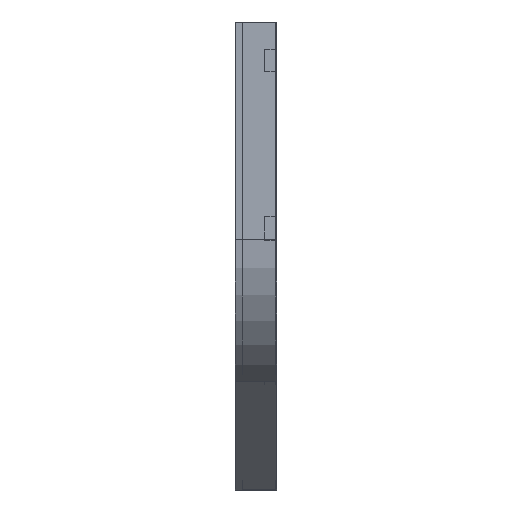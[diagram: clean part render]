
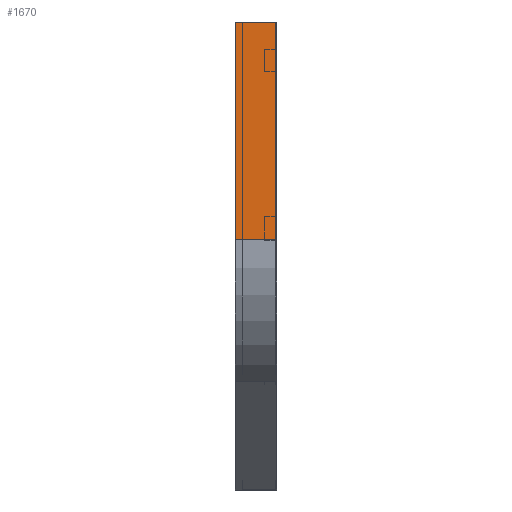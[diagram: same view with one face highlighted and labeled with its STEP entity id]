
A CAD part, left-side view. The second image highlights one B-rep face of the part: STEP entity #1670.
In plain terms, the highlighted planar face has unit normal (-1, 0, 0).
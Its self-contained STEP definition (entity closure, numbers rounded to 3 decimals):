
#13 = ORIENTED_EDGE ( 'NONE', *, *, #1419, .F. ) ;
#133 = DIRECTION ( 'NONE',  ( 0., 0., -1. ) ) ;
#140 = DIRECTION ( 'NONE',  ( 0., -1., 0. ) ) ;
#202 = CARTESIAN_POINT ( 'NONE',  ( 0., 75., 0. ) ) ;
#230 = CARTESIAN_POINT ( 'NONE',  ( 0., 0., 0. ) ) ;
#360 = VERTEX_POINT ( 'NONE', #1483 ) ;
#363 = LINE ( 'NONE', #230, #1009 ) ;
#380 = VERTEX_POINT ( 'NONE', #1509 ) ;
#435 = FACE_OUTER_BOUND ( 'NONE', #765, .T. ) ;
#566 = CARTESIAN_POINT ( 'NONE',  ( 0., 0., 0. ) ) ;
#730 = CARTESIAN_POINT ( 'NONE',  ( 0., 0., 0. ) ) ;
#765 = EDGE_LOOP ( 'NONE', ( #807, #13, #1247, #1259 ) ) ;
#807 = ORIENTED_EDGE ( 'NONE', *, *, #1396, .F. ) ;
#897 = PLANE ( 'NONE',  #1199 ) ;
#938 = VECTOR ( 'NONE', #133, 1000. ) ;
#1009 = VECTOR ( 'NONE', #1214, 1000. ) ;
#1040 = EDGE_CURVE ( 'NONE', #1822, #380, #1461, .T. ) ;
#1058 = VERTEX_POINT ( 'NONE', #730 ) ;
#1095 = DIRECTION ( 'NONE',  ( 0., 0., -1. ) ) ;
#1117 = EDGE_CURVE ( 'NONE', #380, #360, #1479, .T. ) ;
#1160 = CARTESIAN_POINT ( 'NONE',  ( 0., 75., 0. ) ) ;
#1175 = DIRECTION ( 'NONE',  ( 1., 0., 0. ) ) ;
#1199 = AXIS2_PLACEMENT_3D ( 'NONE', #566, #1175, #1417 ) ;
#1214 = DIRECTION ( 'NONE',  ( 0., -1., 0. ) ) ;
#1247 = ORIENTED_EDGE ( 'NONE', *, *, #1040, .T. ) ;
#1259 = ORIENTED_EDGE ( 'NONE', *, *, #1117, .T. ) ;
#1351 = VECTOR ( 'NONE', #140, 1000. ) ;
#1354 = VECTOR ( 'NONE', #1095, 1000. ) ;
#1396 = EDGE_CURVE ( 'NONE', #1058, #360, #1506, .T. ) ;
#1417 = DIRECTION ( 'NONE',  ( 0., 0., -1. ) ) ;
#1419 = EDGE_CURVE ( 'NONE', #1822, #1058, #363, .T. ) ;
#1446 = CARTESIAN_POINT ( 'NONE',  ( 0., 0., -396.41 ) ) ;
#1461 = LINE ( 'NONE', #1160, #938 ) ;
#1479 = LINE ( 'NONE', #1446, #1351 ) ;
#1483 = CARTESIAN_POINT ( 'NONE',  ( 0., 0., -396.41 ) ) ;
#1506 = LINE ( 'NONE', #1808, #1354 ) ;
#1509 = CARTESIAN_POINT ( 'NONE',  ( 0., 75., -396.41 ) ) ;
#1670 = ADVANCED_FACE ( 'NONE', ( #435 ), #897, .F. ) ;
#1808 = CARTESIAN_POINT ( 'NONE',  ( 0., 0., 0. ) ) ;
#1822 = VERTEX_POINT ( 'NONE', #202 ) ;
